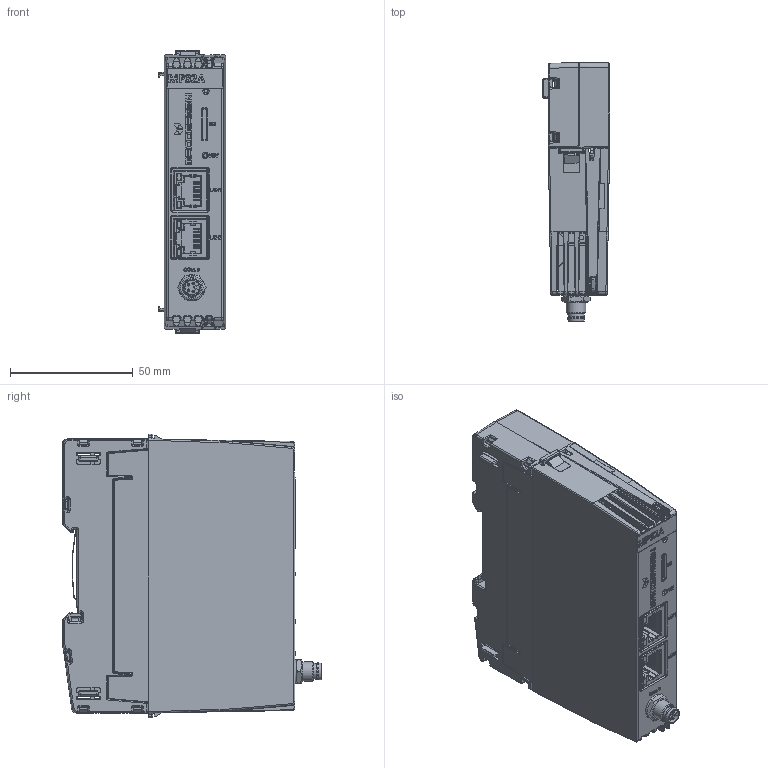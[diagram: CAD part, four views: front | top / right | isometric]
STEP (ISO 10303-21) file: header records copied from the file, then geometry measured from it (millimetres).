
FILE_DESCRIPTION(/* description */ (''),/* implementation_level */ '2;1');
FILE_NAME(/* name */ 'C:\Users\Public\Documents\Autodesk\Inventor 2023\MP32A_REVD_Simplified+BB61A.stp',/* time_stamp */ '2024-11-20T09:38:26+01:00',/* author */ ('asho'),/* organization */ (''),/* preprocessor_version */ 'ST-DEVELOPER v19',/* originating_system */ 'Autodesk Inventor 2023',/* authorisation */ '');
FILE_SCHEMA (('AUTOMOTIVE_DESIGN { 1 0 10303 214 3 1 1 }'));
Products named in the file (1): MP32A_REVD_Simplified+BB61A
Bounding box: 27.4 x 105.31 x 115.5 mm (x, y, z)
Volume: 111577.4 mm3; surface area: 84075.2 mm2
Topology: 7 solids, 8 shells, 6306 faces, 17199 edges, 10796 vertices
Faces by surface type: plane 3603, cylinder 1768, bspline 627, sphere 188, torus 74, cone 46
Full cylindrical faces by diameter (mm): 0.3 x39, 0.5 x2, 0.7 x36, 0.75 x2, 0.8 x17, 0.85 x24, 0.9 x28, 1 x8, 1.02 x8, 1.1 x1, 1.3 x4, 1.4 x4, 1.6 x3, 1.7 x4, 2.35 x2, 2.5 x1, 3 x3, 3.25 x2, 5.8 x1, 6.5 x1, 6.9 x1, 6.917 x1, 7.896 x1, 8.416 x2, 9 x1, 10.69 x1
Entity records: 224493 total; most frequent: CARTESIAN_POINT 59970, ORIENTED_EDGE 34036, DIRECTION 31546, EDGE_CURVE 17018, LINE 11778, VECTOR 11778, VERTEX_POINT 10796, AXIS2_PLACEMENT_3D 9884
